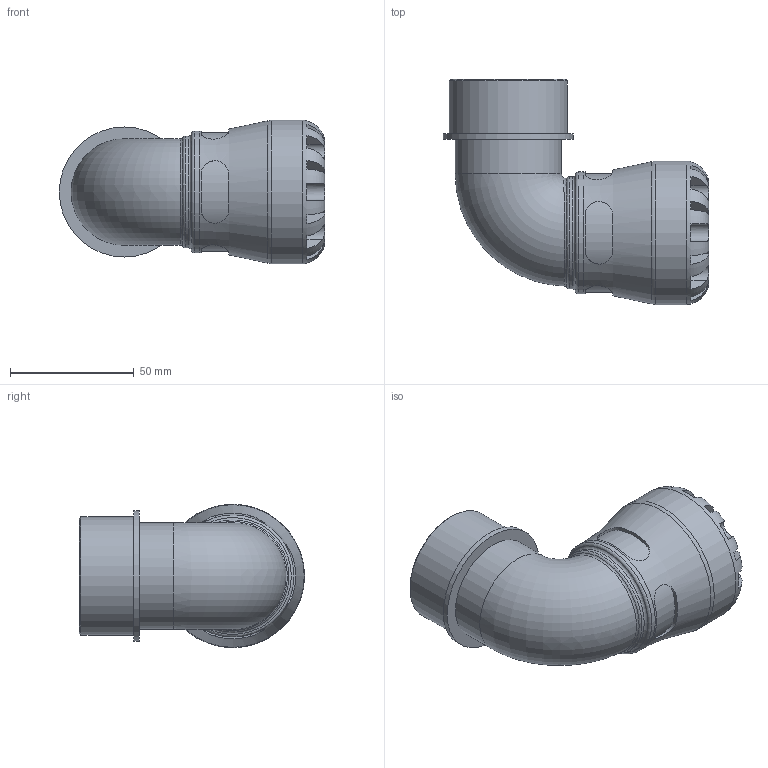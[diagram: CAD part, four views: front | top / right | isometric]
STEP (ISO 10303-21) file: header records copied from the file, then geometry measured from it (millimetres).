
FILE_DESCRIPTION(/* description */ ('PLASSON 90° ELBOW WITH THREADED MALE OFFTAKE 32X1 1/2" SERIES 2'),/* implementation_level */ '2;1');
FILE_NAME(/* name */ 'C:\Dropbox\KIMPROJECTS-Inventor\99-16-3568-Processing\S1\53mp\1085\108500032015_198500032015.ipt.stp',/* time_stamp */ '2019-10-29T10:12:21+02:00',/* author */ ('KIM'),/* organization */ (''),/* preprocessor_version */ 'ST-DEVELOPER v15.6',/* originating_system */ 'Autodesk Inventor 2015',/* authorisation */ '');
FILE_SCHEMA (('AUTOMOTIVE_DESIGN { 1 0 10303 214 3 1 1 }'));
Length unit declared in the file: millimetre
Products named in the file (1): 108500032015_198500032015
Bounding box: 107.29 x 91 x 58 mm (x, y, z)
Volume: 130120 mm3; surface area: 39145.3 mm2
Topology: 1 solids, 1 shells, 109 faces, 271 edges, 170 vertices
Faces by surface type: plane 61, cylinder 37, torus 7, bspline 2, cone 2
Full cylindrical faces by diameter (mm): 32 x1, 33.462 x2, 43.023 x1, 45.24 x1, 47.803 x1, 49.3 x1, 52.583 x1, 58 x1
Entity records: 4274 total; most frequent: CARTESIAN_POINT 1735, ORIENTED_EDGE 490, DIRECTION 486, EDGE_CURVE 245, AXIS2_PLACEMENT_3D 203, VERTEX_POINT 163, EDGE_LOOP 136, STYLED_ITEM 110
